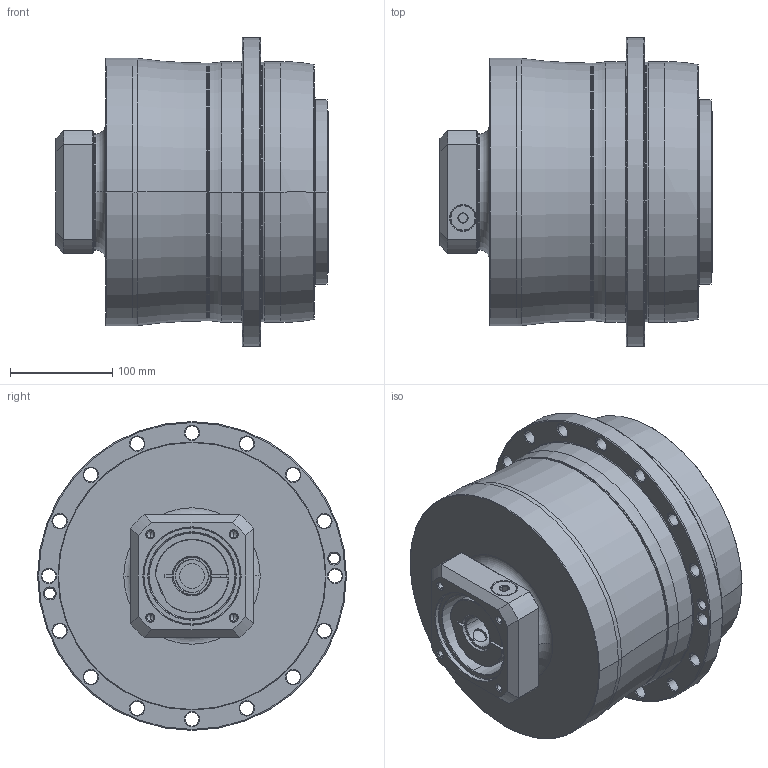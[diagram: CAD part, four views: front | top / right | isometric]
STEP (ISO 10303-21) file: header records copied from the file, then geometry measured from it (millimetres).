
FILE_DESCRIPTION((''),'2;1');
FILE_NAME('AH255_2ST_32-P0409700101_ASM','2016-08-15T',('d01943'),(''),'PRO/ENGINEER BY PARAMETRIC TECHNOLOGY CORPORATION, 2008410','PRO/ENGINEER BY PARAMETRIC TECHNOLOGY CORPORATION, 2008410','');
FILE_SCHEMA(('CONFIG_CONTROL_DESIGN'));
Length unit declared in the file: millimetre
Products named in the file (8): P0278700003; P0359700003; P1317700001; P0409700101; P0503700010; P0912600001; 21711418017; AH255_2ST_32-P0409700101_ASM
Assembly tree (7 placements, depth 2):
  AH255_2ST_32-P0409700101_ASM
    P0278700003
    P0359700003
    P1317700001
    P0409700101
    P0503700010
    P0912600001
    21711418017
Bounding box: 266 x 302 x 302 mm (x, y, z)
Volume: 11070488.5 mm3; surface area: 692131 mm2
Topology: 8 solids, 8 shells, 579 faces, 1341 edges, 783 vertices
Faces by surface type: cylinder 218, cone 192, plane 95, torus 60, bspline 14
Entity records: 20793 total; most frequent: CARTESIAN_POINT 7342, DIRECTION 3045, ORIENTED_EDGE 2590, EDGE_CURVE 1295, AXIS2_PLACEMENT_3D 1282, VERTEX_POINT 783, CIRCLE 702, EDGE_LOOP 680
